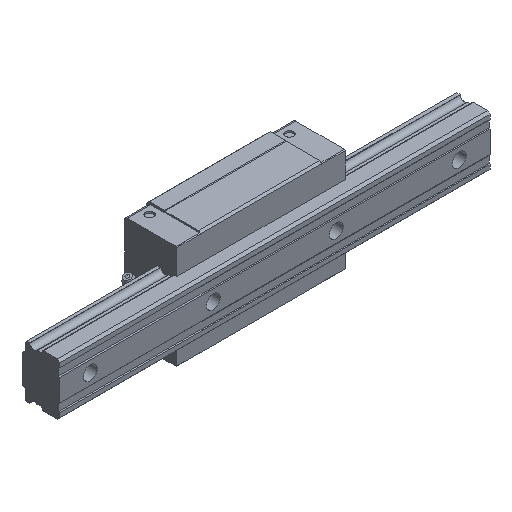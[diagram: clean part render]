
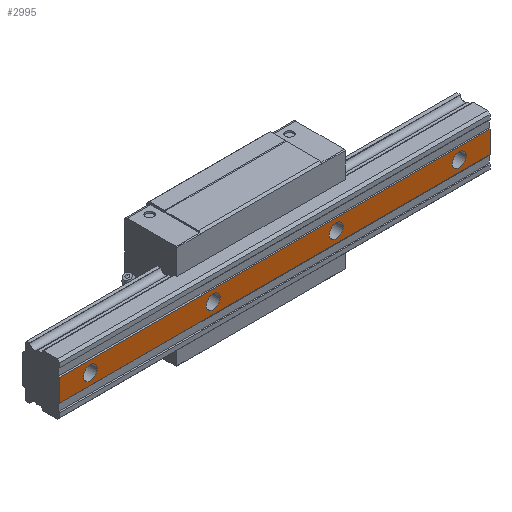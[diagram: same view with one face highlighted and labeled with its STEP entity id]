
A CAD part, isometric view. The second image highlights one B-rep face of the part: STEP entity #2995.
In plain terms, the highlighted planar face has unit normal (0, -1, 0).
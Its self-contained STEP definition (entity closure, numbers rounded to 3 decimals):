
#103=CIRCLE('',#3225,4.5);
#104=CIRCLE('',#3226,4.5);
#105=CIRCLE('',#3227,4.5);
#106=CIRCLE('',#3228,4.5);
#342=ORIENTED_EDGE('',*,*,#1181,.F.);
#343=ORIENTED_EDGE('',*,*,#1182,.F.);
#344=ORIENTED_EDGE('',*,*,#1183,.F.);
#345=ORIENTED_EDGE('',*,*,#1184,.F.);
#346=ORIENTED_EDGE('',*,*,#1185,.T.);
#347=ORIENTED_EDGE('',*,*,#1186,.F.);
#348=ORIENTED_EDGE('',*,*,#1187,.F.);
#349=ORIENTED_EDGE('',*,*,#1179,.T.);
#1179=EDGE_CURVE('',#1593,#1592,#1900,.T.);
#1181=EDGE_CURVE('',#1594,#1594,#103,.T.);
#1182=EDGE_CURVE('',#1595,#1595,#104,.T.);
#1183=EDGE_CURVE('',#1596,#1596,#105,.T.);
#1184=EDGE_CURVE('',#1597,#1597,#106,.T.);
#1185=EDGE_CURVE('',#1592,#1598,#1902,.T.);
#1186=EDGE_CURVE('',#1599,#1598,#1903,.T.);
#1187=EDGE_CURVE('',#1593,#1599,#1904,.T.);
#1592=VERTEX_POINT('',#4519);
#1593=VERTEX_POINT('',#4521);
#1594=VERTEX_POINT('',#4525);
#1595=VERTEX_POINT('',#4527);
#1596=VERTEX_POINT('',#4529);
#1597=VERTEX_POINT('',#4531);
#1598=VERTEX_POINT('',#4533);
#1599=VERTEX_POINT('',#4535);
#1900=LINE('',#4520,#2164);
#1902=LINE('',#4532,#2166);
#1903=LINE('',#4534,#2167);
#1904=LINE('',#4536,#2168);
#2164=VECTOR('',#3604,1000.);
#2166=VECTOR('',#3616,1000.);
#2167=VECTOR('',#3617,1000.);
#2168=VECTOR('',#3618,1000.);
#2411=EDGE_LOOP('',(#342));
#2412=EDGE_LOOP('',(#343));
#2413=EDGE_LOOP('',(#344));
#2414=EDGE_LOOP('',(#345));
#2415=EDGE_LOOP('',(#346,#347,#348,#349));
#2650=FACE_BOUND('',#2411,.T.);
#2651=FACE_BOUND('',#2412,.T.);
#2652=FACE_BOUND('',#2413,.T.);
#2653=FACE_BOUND('',#2414,.T.);
#2654=FACE_BOUND('',#2415,.T.);
#2890=PLANE('',#3224);
#2995=ADVANCED_FACE('',(#2650,#2651,#2652,#2653,#2654),#2890,.F.);
#3224=AXIS2_PLACEMENT_3D('',#4523,#3606,#3607);
#3225=AXIS2_PLACEMENT_3D('',#4524,#3608,#3609);
#3226=AXIS2_PLACEMENT_3D('',#4526,#3610,#3611);
#3227=AXIS2_PLACEMENT_3D('',#4528,#3612,#3613);
#3228=AXIS2_PLACEMENT_3D('',#4530,#3614,#3615);
#3604=DIRECTION('',(-1.,0.,0.));
#3606=DIRECTION('',(0.,1.,0.));
#3607=DIRECTION('',(0.,0.,1.));
#3608=DIRECTION('',(0.,-1.,0.));
#3609=DIRECTION('',(0.,0.,-1.));
#3610=DIRECTION('',(0.,-1.,0.));
#3611=DIRECTION('',(0.,0.,-1.));
#3612=DIRECTION('',(0.,-1.,0.));
#3613=DIRECTION('',(0.,0.,-1.));
#3614=DIRECTION('',(0.,-1.,0.));
#3615=DIRECTION('',(0.,0.,-1.));
#3616=DIRECTION('',(0.,0.,-1.));
#3617=DIRECTION('',(-1.,0.,0.));
#3618=DIRECTION('',(0.,0.,-1.));
#4519=CARTESIAN_POINT('',(-20.,0.,7.2));
#4520=CARTESIAN_POINT('',(260.,0.,7.2));
#4521=CARTESIAN_POINT('',(260.,0.,7.2));
#4523=CARTESIAN_POINT('',(260.,0.,7.2));
#4524=CARTESIAN_POINT('',(80.,0.,0.));
#4525=CARTESIAN_POINT('',(80.,0.,-4.5));
#4526=CARTESIAN_POINT('',(160.,0.,0.));
#4527=CARTESIAN_POINT('',(160.,0.,-4.5));
#4528=CARTESIAN_POINT('',(240.,0.,0.));
#4529=CARTESIAN_POINT('',(240.,0.,-4.5));
#4530=CARTESIAN_POINT('',(0.,0.,0.));
#4531=CARTESIAN_POINT('',(0.,0.,-4.5));
#4532=CARTESIAN_POINT('',(-20.,0.,7.2));
#4533=CARTESIAN_POINT('',(-20.,0.,-7.2));
#4534=CARTESIAN_POINT('',(260.,0.,-7.2));
#4535=CARTESIAN_POINT('',(260.,0.,-7.2));
#4536=CARTESIAN_POINT('',(260.,0.,7.2));
